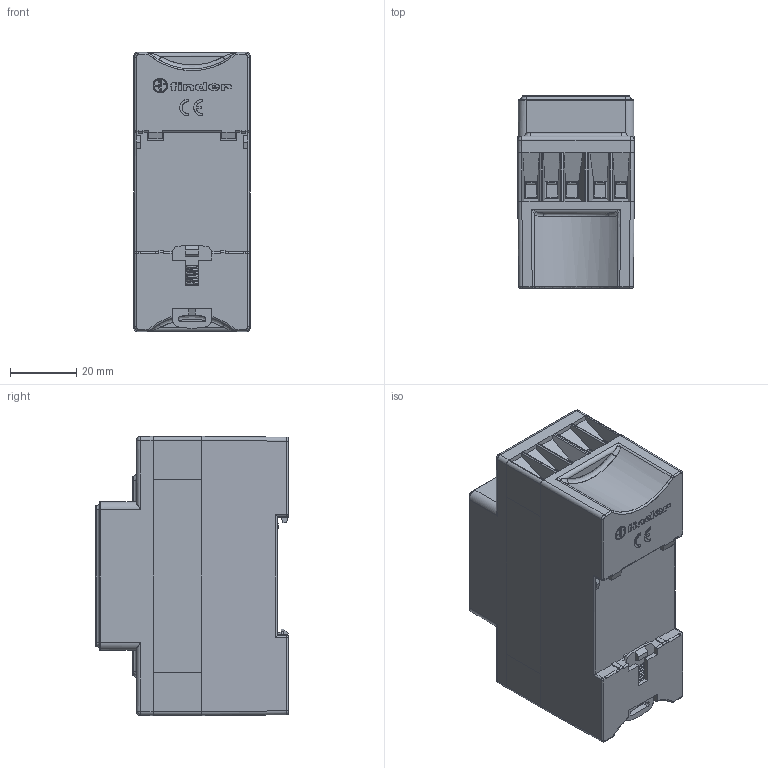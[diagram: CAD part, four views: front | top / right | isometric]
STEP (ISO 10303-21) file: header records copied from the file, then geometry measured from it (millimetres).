
FILE_DESCRIPTION(('STEP AP214'),'2;1');
FILE_NAME('72_01-skin.stp','2010-04-08T11:40:04',(''),(''),'2007.1.106','THINKDESIGN','');
FILE_SCHEMA(('AUTOMOTIVE_DESIGN'));
Products named in the file (1): None
Bounding box: 35 x 58 x 84 mm (x, y, z)
Surface area: 27942.3 mm2 (no closed solid volume)
Topology: 0 solids, 0 shells, 1096 faces, 6266 edges, 6236 vertices
Faces by surface type: plane 763, cylinder 220, bspline 113
Full cylindrical faces by diameter (mm): 3 x3, 4.2 x10, 4.352 x1, 5 x1, 6.4 x1, 13 x1
Entity records: 72987 total; most frequent: CARTESIAN_POINT 28447, DIRECTION 7656, COMPOSITE_CURVE_SEGMENT 6252, TRIMMED_CURVE 5252, VECTOR 4876, LINE 4876, AXIS2_PLACEMENT_3D 1390, OUTER_BOUNDARY_CURVE 1096
